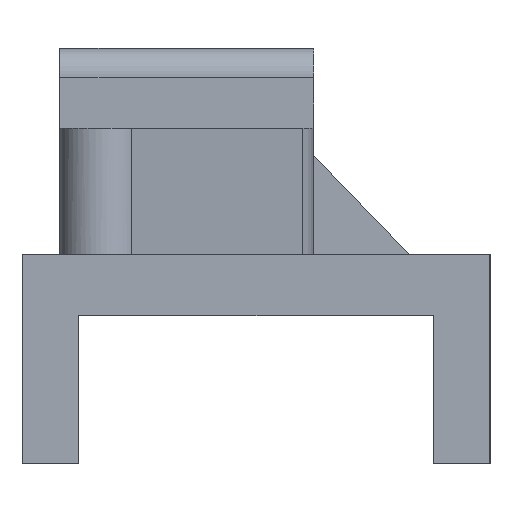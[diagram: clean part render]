
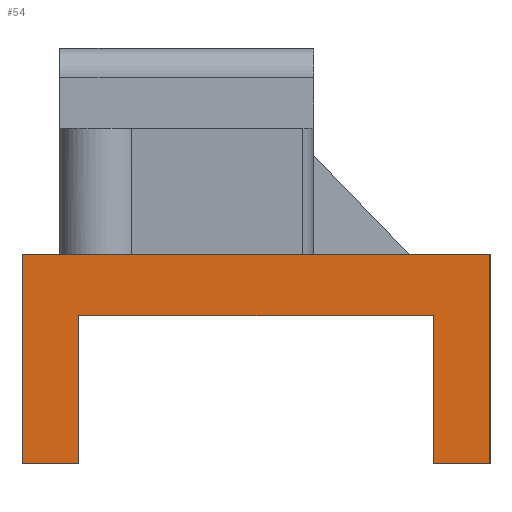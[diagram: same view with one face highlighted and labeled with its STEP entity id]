
A CAD part, left-side view. The second image highlights one B-rep face of the part: STEP entity #54.
In plain terms, the highlighted planar face has unit normal (-1, 0, 0).
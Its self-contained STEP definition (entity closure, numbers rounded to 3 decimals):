
#54=ADVANCED_FACE('',(#136),#1318,.T.);
#136=FACE_OUTER_BOUND('',#218,.T.);
#218=EDGE_LOOP('',(#449,#450,#451,#452,#453,#454,#455,#456));
#449=ORIENTED_EDGE('',*,*,#794,.F.);
#450=ORIENTED_EDGE('',*,*,#806,.T.);
#451=ORIENTED_EDGE('',*,*,#777,.F.);
#452=ORIENTED_EDGE('',*,*,#779,.F.);
#453=ORIENTED_EDGE('',*,*,#785,.T.);
#454=ORIENTED_EDGE('',*,*,#782,.T.);
#455=ORIENTED_EDGE('',*,*,#796,.F.);
#456=ORIENTED_EDGE('',*,*,#795,.F.);
#777=EDGE_CURVE('',#1188,#1189,#997,.T.);
#779=EDGE_CURVE('',#1190,#1188,#999,.T.);
#782=EDGE_CURVE('',#1193,#1200,#1002,.T.);
#785=EDGE_CURVE('',#1190,#1193,#1005,.T.);
#794=EDGE_CURVE('',#1201,#1202,#1014,.T.);
#795=EDGE_CURVE('',#1202,#1203,#1015,.T.);
#796=EDGE_CURVE('',#1203,#1200,#1016,.T.);
#806=EDGE_CURVE('',#1201,#1189,#1026,.T.);
#997=B_SPLINE_CURVE_WITH_KNOTS('',1,(#2040,#2041),.UNSPECIFIED.,.F.,.F.,
(2,2),(0.,3.576),.UNSPECIFIED.);
#999=B_SPLINE_CURVE_WITH_KNOTS('',1,(#2044,#2045),.UNSPECIFIED.,.F.,.F.,
(2,2),(53.469,61.403),.UNSPECIFIED.);
#1002=B_SPLINE_CURVE_WITH_KNOTS('',1,(#2050,#2051),.UNSPECIFIED.,.F.,.F.,
(2,2),(53.469,54.469),.UNSPECIFIED.);
#1005=B_SPLINE_CURVE_WITH_KNOTS('',1,(#2056,#2057),.UNSPECIFIED.,.F.,.F.,
(2,2),(0.,3.576),.UNSPECIFIED.);
#1014=B_SPLINE_CURVE_WITH_KNOTS('',1,(#2074,#2075),.UNSPECIFIED.,.F.,.F.,
(2,2),(0.,2.5),.UNSPECIFIED.);
#1015=B_SPLINE_CURVE_WITH_KNOTS('',1,(#2076,#2077),.UNSPECIFIED.,.F.,.F.,
(2,2),(-61.403,-53.469),.UNSPECIFIED.);
#1016=B_SPLINE_CURVE_WITH_KNOTS('',1,(#2078,#2079),.UNSPECIFIED.,.F.,.F.,
(2,2),(-2.5,0.),.UNSPECIFIED.);
#1026=B_SPLINE_CURVE_WITH_KNOTS('',1,(#2098,#2099),.UNSPECIFIED.,.F.,.F.,
(2,2),(60.403,61.403),.UNSPECIFIED.);
#1188=VERTEX_POINT('',#1759);
#1189=VERTEX_POINT('',#1760);
#1190=VERTEX_POINT('',#1761);
#1193=VERTEX_POINT('',#1764);
#1200=VERTEX_POINT('',#1771);
#1201=VERTEX_POINT('',#1772);
#1202=VERTEX_POINT('',#1773);
#1203=VERTEX_POINT('',#1774);
#1318=PLANE('',#1488);
#1488=AXIS2_PLACEMENT_3D('',#1654,#1567,$);
#1567=DIRECTION('',(-1.,0.,0.));
#1654=CARTESIAN_POINT('',(-12.519,-4.72,3.609));
#1759=CARTESIAN_POINT('',(-12.519,-4.72,3.609));
#1760=CARTESIAN_POINT('',(-12.519,-4.72,-0.087));
#1761=CARTESIAN_POINT('',(-12.519,3.555,3.609));
#1764=CARTESIAN_POINT('',(-12.519,3.555,-0.087));
#1771=CARTESIAN_POINT('',(-12.519,2.555,-0.087));
#1772=CARTESIAN_POINT('',(-12.519,-3.72,-0.087));
#1773=CARTESIAN_POINT('',(-12.519,-3.72,2.533));
#1774=CARTESIAN_POINT('',(-12.519,2.555,2.533));
#2040=CARTESIAN_POINT('',(-12.519,-4.72,3.609));
#2041=CARTESIAN_POINT('',(-12.519,-4.72,-0.087));
#2044=CARTESIAN_POINT('',(-12.519,3.555,3.609));
#2045=CARTESIAN_POINT('',(-12.519,-4.72,3.609));
#2050=CARTESIAN_POINT('',(-12.519,3.555,-0.087));
#2051=CARTESIAN_POINT('',(-12.519,2.555,-0.087));
#2056=CARTESIAN_POINT('',(-12.519,3.555,3.609));
#2057=CARTESIAN_POINT('',(-12.519,3.555,-0.087));
#2074=CARTESIAN_POINT('',(-12.519,-3.72,-0.087));
#2075=CARTESIAN_POINT('',(-12.519,-3.72,2.533));
#2076=CARTESIAN_POINT('',(-12.519,-3.72,2.533));
#2077=CARTESIAN_POINT('',(-12.519,2.555,2.533));
#2078=CARTESIAN_POINT('',(-12.519,2.555,2.533));
#2079=CARTESIAN_POINT('',(-12.519,2.555,-0.087));
#2098=CARTESIAN_POINT('',(-12.519,-3.72,-0.087));
#2099=CARTESIAN_POINT('',(-12.519,-4.72,-0.087));
